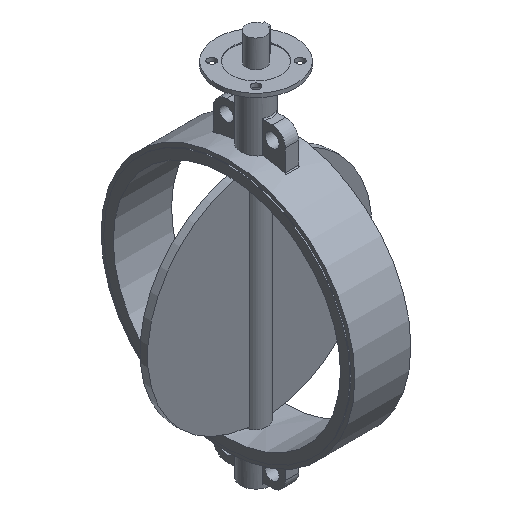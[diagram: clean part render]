
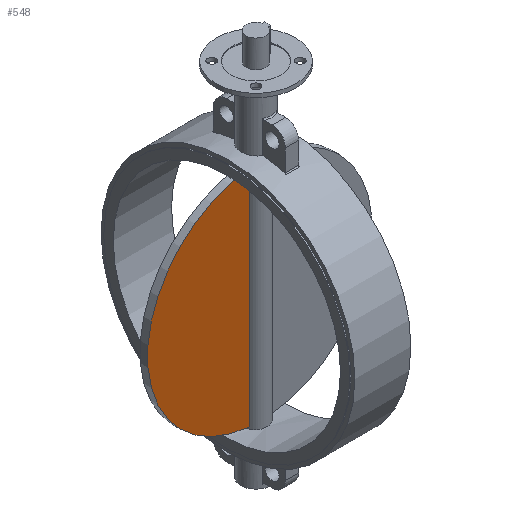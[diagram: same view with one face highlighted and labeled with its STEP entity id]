
A CAD part, isometric view. The second image highlights one B-rep face of the part: STEP entity #548.
In plain terms, the highlighted planar face has unit normal (0, -1, 0).
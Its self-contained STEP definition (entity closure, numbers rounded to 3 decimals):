
#548=ADVANCED_FACE('',(#1309),#1311,.T.);
#1309=FACE_BOUND('',#1310,.T.);
#1310=EDGE_LOOP('',(#1842,#1843));
#1311=PLANE('',#1312);
#1312=AXIS2_PLACEMENT_3D('',#1313,#1314,#1315);
#1313=CARTESIAN_POINT('',(0.,-10.,0.));
#1314=DIRECTION('',(0.,-1.,0.));
#1315=DIRECTION('',(0.,0.,1.));
#1842=ORIENTED_EDGE('',*,*,#2088,.T.);
#1843=ORIENTED_EDGE('',*,*,#2121,.T.);
#2088=EDGE_CURVE('',#2380,#2377,#2381,.F.);
#2121=EDGE_CURVE('',#2377,#2380,#2424,.T.);
#2377=VERTEX_POINT('',#3873);
#2380=VERTEX_POINT('',#3918);
#2381=LINE('',#3919,#3920);
#2424=CIRCLE('',#4080,296.25);
#3873=CARTESIAN_POINT('',(-28.284,-10.,294.897));
#3918=CARTESIAN_POINT('',(-28.284,-10.,-294.897));
#3919=CARTESIAN_POINT('',(-28.284,-10.,294.897));
#3920=VECTOR('',#3921,1.);
#3921=DIRECTION('',(0.,0.,-1.));
#4080=AXIS2_PLACEMENT_3D('',#4081,#4082,#4083);
#4081=CARTESIAN_POINT('',(0.,-10.,0.));
#4082=DIRECTION('',(0.,-1.,0.));
#4083=DIRECTION('',(-0.095,0.,0.995));
